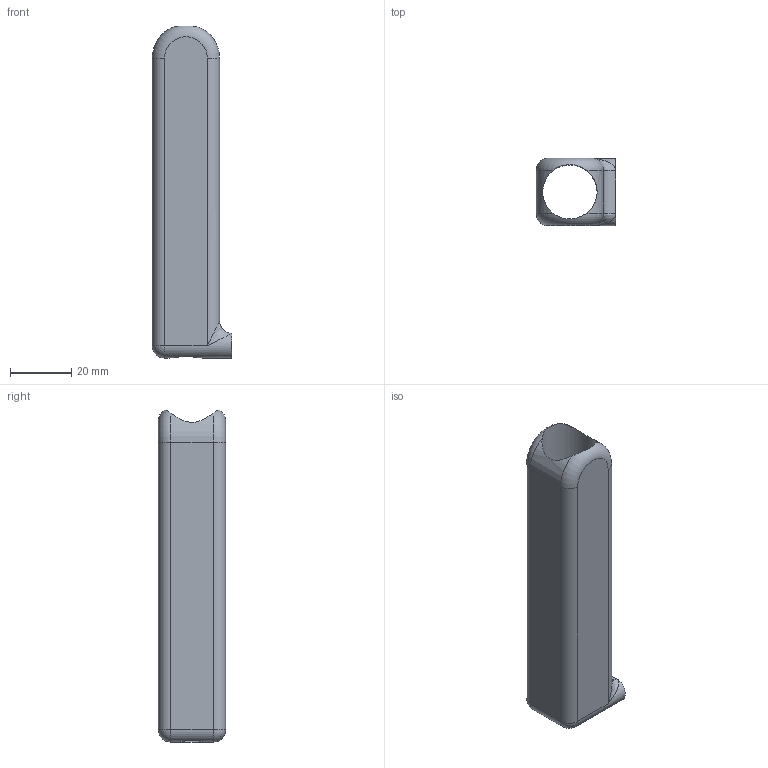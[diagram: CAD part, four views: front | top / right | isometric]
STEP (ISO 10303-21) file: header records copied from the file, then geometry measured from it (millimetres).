
FILE_DESCRIPTION(/* description */ (''),/* implementation_level */ '2;1');
FILE_NAME(/* name */ 'C:/Users/Owner/Desktop/K-CAD Songbird PM4 Centerfire/STEP/Barrels/Barrel Type 2/Barrel Type 2 .7 inch ID.step',/* time_stamp */ '2020-12-05T21:33:37-05:00',/* author */ (''),/* organization */ (''),/* preprocessor_version */ 'ST-DEVELOPER v18.1',/* originating_system */ 'Autodesk Translation Framework v9.3.0.1241',/* authorisation */ '');
FILE_SCHEMA (('AUTOMOTIVE_DESIGN { 1 0 10303 214 3 1 1 }'));
Length unit declared in the file: inch
Products named in the file (1): Barrel Type 2 .7 inch ID
Bounding box: 26 x 22 x 108.52 mm (x, y, z)
Volume: 23792.1 mm3; surface area: 14964 mm2
Topology: 1 solids, 1 shells, 25 faces, 64 edges, 36 vertices
Faces by surface type: cylinder 11, plane 8, torus 2, bspline 2, sphere 2
Full cylindrical faces by diameter (mm): 17.78 x1
Entity records: 931 total; most frequent: CARTESIAN_POINT 297, DIRECTION 131, ORIENTED_EDGE 122, EDGE_CURVE 61, AXIS2_PLACEMENT_3D 54, VERTEX_POINT 36, CIRCLE 26, FACE_OUTER_BOUND 25
